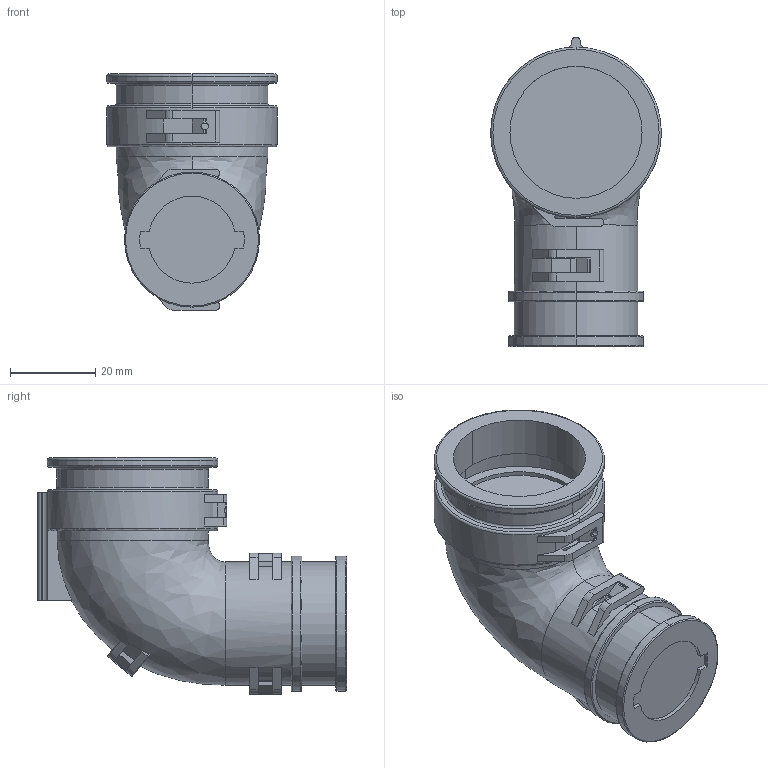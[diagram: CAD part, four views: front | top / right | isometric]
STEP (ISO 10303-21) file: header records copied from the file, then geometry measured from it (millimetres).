
FILE_DESCRIPTION((''),'2;1');
FILE_NAME('C-2428-015-1805','2013-11-26T',('workeradm'),('Tyco Electronics Ltd.'),'PRO/ENGINEER BY PARAMETRIC TECHNOLOGY CORPORATION, 2013050','PRO/ENGINEER BY PARAMETRIC TECHNOLOGY CORPORATION, 2013050','');
FILE_SCHEMA(('AUTOMOTIVE_DESIGN { 1 0 10303 214 1 1 1 1 }'));
Length unit declared in the file: millimetre
Products named in the file (1): C-2428-015-1805
Bounding box: 40.01 x 72.49 x 55.4 mm (x, y, z)
Volume: 55768 mm3; surface area: 14751.5 mm2
Topology: 1 solids, 1 shells, 178 faces, 523 edges, 330 vertices
Faces by surface type: plane 107, cylinder 50, torus 19, bspline 2
Entity records: 6758 total; most frequent: CARTESIAN_POINT 1743, ORIENTED_EDGE 1046, DIRECTION 1014, EDGE_CURVE 523, AXIS2_PLACEMENT_3D 347, VERTEX_POINT 330, VECTOR 320, LINE 320
